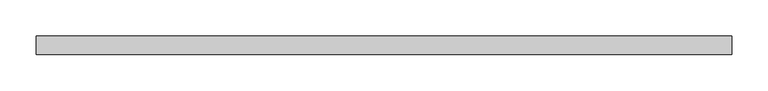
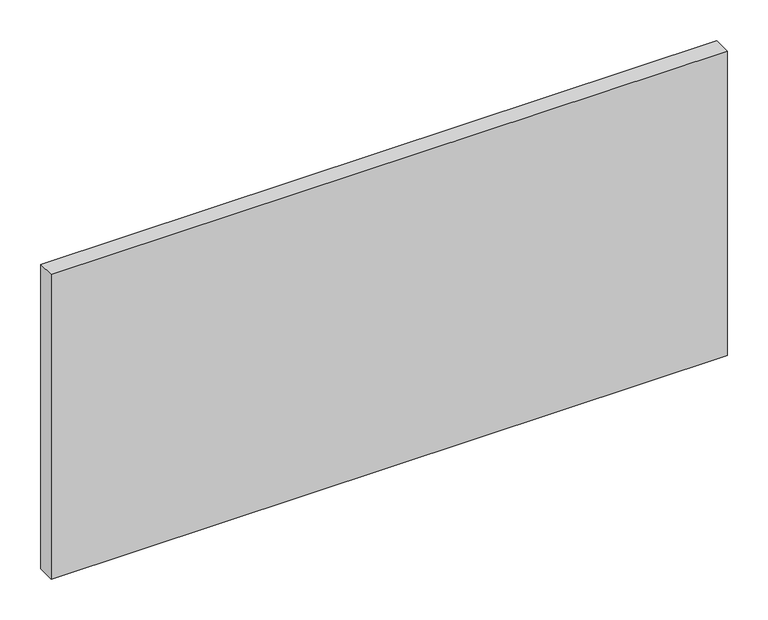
"""IFC4 building model written with IfcOpenShell, lengths in millimetres: plate geometry, 系统嵌板 : 玻璃."""

from ifc_helpers import new_model, si_unit, origin, origin_with_axes, place, context, project, spatial, polyline, outline, extrude, source, transform, mapped, element, save


def plate_3ad07298(model_context):
    return source(origin(), model_context, "Body", "SweptSolid", [
        extrude(outline(polyline([(477.5, -12.5), (-477.5, -12.5), (-477.5, 12.5), (477.5, 12.5), (477.5, -12.5)])), origin_with_axes(), (0.0, 0.0, 1.0), 455.0),
    ])


if __name__ == "__main__":
    model = new_model("IFC4")
    model_context = context("Model", 3, world=origin())
    ifc_project = project(units=[si_unit("LENGTHUNIT", "METRE", prefix="MILLI")], contexts=[model_context])
    site = spatial("IfcSite", under=ifc_project)
    building = spatial("IfcBuilding", under=site)
    placement = place(None, origin())
    plate_shape = plate_3ad07298(model_context)
    element("IfcPlate", 1, ObjectType="系统嵌板 : 玻璃", at=placement, inside=building, context=model_context, shape_type="MappedRepresentation", body=[
        mapped(plate_shape, transform((0.0, 0.0, 0.0), x_axis=(1.0, 0.0, 0.0), y_axis=(0.0, 1.0, 0.0), z_axis=(0.0, 0.0, 1.0))),
    ])
    save(model, "model.ifc")
